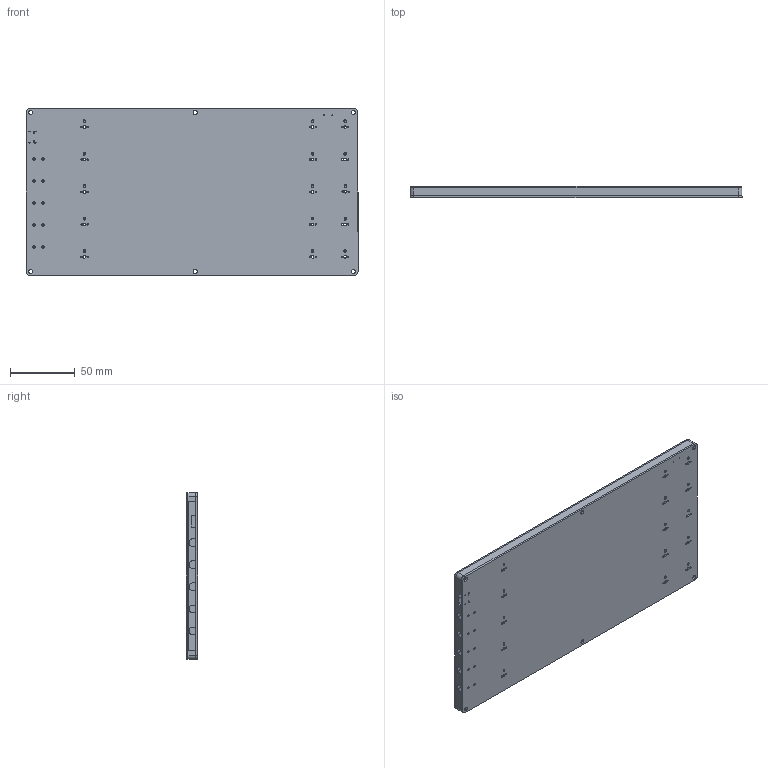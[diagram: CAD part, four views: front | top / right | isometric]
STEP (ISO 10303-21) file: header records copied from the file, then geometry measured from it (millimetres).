
FILE_DESCRIPTION (( 'STEP AP203' ), '1' );
FILE_NAME ('Matrix_V2_Assembly.STEP', '2023-06-28T16:40:04', ( '' ), ( '' ), 'SwSTEP 2.0', 'SolidWorks 2016', '' );
FILE_SCHEMA (( 'CONFIG_CONTROL_DESIGN' ));
Length unit declared in the file: millimetre
Products named in the file (4): Matrix_V2_Assembly; Matrix_V2_Base; Matrix_V2_3DP; Matrix_V2
Assembly tree (3 placements, depth 2):
  Matrix_V2_Assembly
    Matrix_V2_Base
    Matrix_V2
    Matrix_V2_3DP
Bounding box: 256 x 8.86 x 128.5 mm (x, y, z)
Volume: 104254.6 mm3; surface area: 176996.6 mm2
Topology: 3 solids, 3 shells, 2158 faces, 6403 edges, 4267 vertices
Faces by surface type: plane 1512, cylinder 646
Entity records: 74153 total; most frequent: CARTESIAN_POINT 12834, ORIENTED_EDGE 12806, DIRECTION 12019, EDGE_CURVE 6403, VECTOR 5115, LINE 5115, VERTEX_POINT 4267, AXIS2_PLACEMENT_3D 3452
